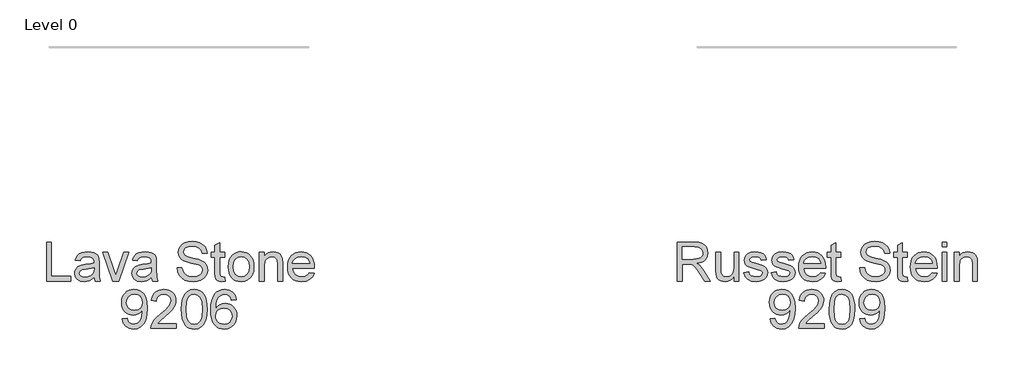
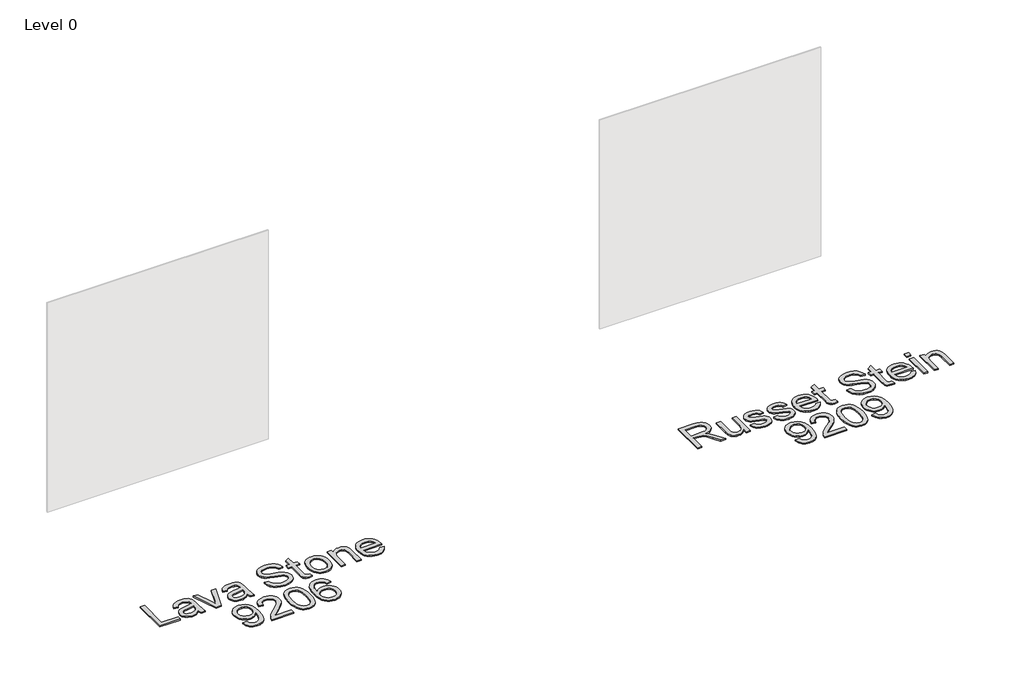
# One storey, part 2 of 8: 2 proxies.
"""IFC4 building model written with IfcOpenShell, lengths in millimetres."""

from ifc_helpers import new_model, si_unit, origin, origin_with_axes, place, context, project, spatial, polyline, outline, extrude, element, save

model = new_model("IFC4")

# Units and contexts
model_context = context("Model", 3, world=origin())
ifc_project = project(units=[si_unit("LENGTHUNIT", "METRE", prefix="MILLI")], contexts=[model_context])

# Site, building, storey
site = spatial("IfcSite", under=ifc_project)
building = spatial("IfcBuilding", under=site)
storey = spatial("IfcBuildingStorey", under=building, Name="Level 0", Elevation=0.0)

# Proxies
placement = place(None, origin())
element("IfcBuildingElementProxy", 1, Name="300mm Arial", ObjectType="300mm Arial", at=placement, inside=storey, context=model_context, shape_type="SweptSolid", body=[
    extrude(outline(polyline([(-10472.4870861, -12002.860494), (-10472.4870861, -11701.4915635), (-10434.8159698, -11701.4915635), (-10434.8159698, -11965.1893777), (-10284.1315046, -11965.1893777), (-10284.1315046, -12002.860494), (-10472.4870861, -12002.860494)])), origin_with_axes(), (0.0, 0.0, 1.0), 10.0),
    extrude(outline(polyline([(-10105.1937021, -11974.6071568), (-10123.1923287, -11990.0398064), (-10141.7243842, -12000.1381672), (-10161.2129329, -12005.7115794), (-10182.0810391, -12007.5693835), (-10213.5625409, -12003.0996173), (-10236.7850918, -11989.6903186), (-10251.1048985, -11969.3280501), (-10255.8781674, -11943.9993748), (-10254.0755456, -11928.3827841), (-10248.6676802, -11914.2009331), (-10240.325956, -11902.0608273), (-10229.7217575, -11892.5694718), (-10203.3446184, -11880.2086368), (-10170.7502737, -11874.5432541), (-10132.2330288, -11868.5835657), (-10105.4144313, -11861.5938078), (-10105.1937021, -11853.2060983), (-10107.7872702, -11836.3938912), (-10115.5679744, -11825.3942195), (-10132.9687928, -11817.2272392), (-10157.2122162, -11814.5049125), (-10179.6530179, -11816.3167313), (-10195.3247909, -11821.7521878), (-10206.0117629, -11831.8045633), (-10213.4981615, -11847.4671392), (-10251.1692778, -11842.7582497), (-10244.6301753, -11822.156858), (-10234.8721054, -11805.9700502), (-10220.9845601, -11793.590821), (-10202.0570315, -11784.4121652), (-10178.9080569, -11778.7283884), (-10152.3561739, -11776.8337961), (-10126.8895428, -11778.5076592), (-10106.7020183, -11783.5292485), (-10091.4809008, -11791.0800264), (-10080.9134904, -11800.3414556), (-10073.9053384, -11811.7917827), (-10069.3619958, -11825.9092543), (-10067.5225858, -11858.8714811), (-10067.5225858, -11905.7396473), (-10065.6095994, -11971.1858542), (-10058.1048067, -12002.860494), (-10095.775923, -12002.860494), (-10105.1937021, -11974.6071568)]), holes=[polyline([(-10105.1937021, -11899.2649241), (-10165.9678077, -11910.8164188), (-10198.3782115, -11916.9232599), (-10213.0567031, -11926.8560738), (-10218.207051, -11941.3506244), (-10215.4019508, -11952.5526311), (-10206.9866502, -11961.7312869), (-10193.1450901, -11967.8565221), (-10174.0612116, -11969.8982672), (-10153.8277019, -11967.64499), (-10135.9486369, -11960.8851583), (-10121.4540863, -11950.9247533), (-10111.3741196, -11939.069756), (-10106.9043534, -11926.8560738), (-10105.4144313, -11909.933502), (-10105.1937021, -11899.2649241)])]), origin_with_axes(), (0.0, 0.0, 1.0), 10.0),
    extrude(outline(polyline([(-9961.4254184, -12002.860494), (-10039.2692486, -11781.5426857), (-9999.3908403, -11781.5426857), (-9952.2283685, -11914.1273567), (-9938.0281235, -11958.7146546), (-9924.1221841, -11916.6289543), (-9876.6654067, -11781.5426857), (-9836.7869984, -11781.5426857), (-9913.6743354, -12002.860494), (-9961.4254184, -12002.860494)])), origin_with_axes(), (0.0, 0.0, 1.0), 10.0),
    extrude(outline(polyline([(-9662.5580855, -11974.6071568), (-9680.5567121, -11990.0398064), (-9699.0887677, -12000.1381672), (-9718.5773163, -12005.7115794), (-9739.4454225, -12007.5693835), (-9770.9269243, -12003.0996173), (-9794.1494752, -11989.6903186), (-9808.4692819, -11969.3280501), (-9813.2425508, -11943.9993748), (-9811.439929, -11928.3827841), (-9806.0320636, -11914.2009331), (-9797.6903394, -11902.0608273), (-9787.0861409, -11892.5694718), (-9760.7090018, -11880.2086368), (-9728.1146571, -11874.5432541), (-9689.5974122, -11868.5835657), (-9662.7788147, -11861.5938078), (-9662.5580855, -11853.2060983), (-9665.1516536, -11836.3938912), (-9672.9323578, -11825.3942195), (-9690.3331762, -11817.2272392), (-9714.5765996, -11814.5049125), (-9737.0174014, -11816.3167313), (-9752.6891743, -11821.7521878), (-9763.3761463, -11831.8045633), (-9770.8625449, -11847.4671392), (-9808.5336612, -11842.7582497), (-9801.9945588, -11822.156858), (-9792.2364888, -11805.9700502), (-9778.3489435, -11793.590821), (-9759.4214149, -11784.4121652), (-9736.2724403, -11778.7283884), (-9709.7205573, -11776.8337961), (-9684.2539262, -11778.5076592), (-9664.0664017, -11783.5292485), (-9648.8452842, -11791.0800264), (-9638.2778738, -11800.3414556), (-9631.2697218, -11811.7917827), (-9626.7263792, -11825.9092543), (-9624.8869692, -11858.8714811), (-9624.8869692, -11905.7396473), (-9622.9739828, -11971.1858542), (-9615.4691901, -12002.860494), (-9653.1403065, -12002.860494), (-9662.5580855, -11974.6071568)]), holes=[polyline([(-9662.5580855, -11899.2649241), (-9723.3321911, -11910.8164188), (-9755.7425949, -11916.9232599), (-9770.4210865, -11926.8560738), (-9775.5714344, -11941.3506244), (-9772.7663342, -11952.5526311), (-9764.3510336, -11961.7312869), (-9750.5094735, -11967.8565221), (-9731.425595, -11969.8982672), (-9711.1920853, -11967.64499), (-9693.3130203, -11960.8851583), (-9678.8184697, -11950.9247533), (-9668.738503, -11939.069756), (-9664.2687368, -11926.8560738), (-9662.7788147, -11909.933502), (-9662.5580855, -11899.2649241)])]), origin_with_axes(), (0.0, 0.0, 1.0), 10.0),
    extrude(outline(polyline([(-9464.7847249, -11899.2649241), (-9427.1136086, -11899.2649241), (-9422.7909952, -11920.1698185), (-9414.9735028, -11936.9728286), (-9402.7782146, -11950.308551), (-9385.322214, -11960.8115819), (-9363.9850582, -11967.6265959), (-9340.146305, -11969.8982672), (-9319.1586371, -11968.1784189), (-9300.7829315, -11963.0188739), (-9285.8929077, -11954.8518936), (-9275.3622856, -11944.1097394), (-9269.0990946, -11931.7764955), (-9267.0113643, -11918.8362463), (-9268.5748628, -11906.2270909), (-9273.2653582, -11895.3285868), (-9282.7935019, -11886.0303694), (-9298.8699451, -11878.222074), (-9353.7211506, -11863.837888), (-9389.7276009, -11854.3189414), (-9412.7662108, -11845.2598472), (-9431.5189955, -11832.5863125), (-9444.8087326, -11817.2272392), (-9452.7273925, -11799.5137211), (-9455.3669458, -11779.7768521), (-9452.1019931, -11757.7131294), (-9442.307135, -11737.1393289), (-9426.2398889, -11719.7017223), (-9404.1577721, -11707.0465817), (-9377.6518744, -11699.3486509), (-9348.3132852, -11696.782674), (-9316.5282809, -11699.4682126), (-9288.716402, -11707.5248283), (-9265.8709301, -11720.7869742), (-9248.9851466, -11739.0891034), (-9238.2981746, -11761.2907818), (-9234.0491375, -11786.2515752), (-9271.7202539, -11786.2515752), (-9278.6364354, -11763.7739853), (-9293.0574096, -11747.5503893), (-9315.5901818, -11737.7279401), (-9346.8417573, -11734.4537903), (-9378.8290967, -11737.6911519), (-9400.7732578, -11747.4032365), (-9413.4651866, -11761.695452), (-9417.6958295, -11778.6732061), (-9414.6975913, -11793.1493626), (-9405.7028765, -11804.7928278), (-9384.4392972, -11815.2038882), (-9344.1930069, -11825.8356779), (-9302.6591296, -11835.9340387), (-9277.5327894, -11844.7448125), (-9256.0576779, -11858.4116286), (-9241.0756837, -11875.2790181), (-9232.2741069, -11895.1630399), (-9229.340248, -11917.8797531), (-9232.7155653, -11941.102304), (-9242.8415172, -11962.9452975), (-9259.3042365, -11981.7440675), (-9281.6898559, -11995.8339479), (-9308.6096209, -12004.6355246), (-9338.674777, -12007.5693835), (-9375.5825381, -12004.4055984), (-9405.9603939, -11994.9142429), (-9430.1578321, -11979.0585289), (-9448.5243407, -11956.8016682), (-9460.3149587, -11929.6887651), (-9464.7847249, -11899.2649241)])), origin_with_axes(), (0.0, 0.0, 1.0), 10.0),
    extrude(outline(polyline([(-9097.4913409, -11971.4433716), (-9092.7824514, -12003.96414), (-9120.9622122, -12007.5693835), (-9139.0436123, -12006.005885), (-9152.5264874, -12001.3153896), (-9162.0546311, -11994.0865084), (-9168.2718368, -11984.9078526), (-9171.6931394, -11969.1441091), (-9172.8335735, -11942.1599648), (-9172.8335735, -11819.213802), (-9201.0869108, -11819.213802), (-9201.0869108, -11781.5426857), (-9172.8335735, -11781.5426857), (-9172.8335735, -11727.758338), (-9135.1624572, -11705.6118419), (-9135.1624572, -11781.5426857), (-9097.4913409, -11781.5426857), (-9097.4913409, -11819.213802), (-9135.1624572, -11819.213802), (-9135.1624572, -11941.0563188), (-9133.1758945, -11960.4804881), (-9126.7379596, -11967.3598814), (-9113.8988779, -11969.8982672), (-9097.4913409, -11971.4433716)])), origin_with_axes(), (0.0, 0.0, 1.0), 10.0),
    extrude(outline(polyline([(-9069.2380037, -11892.2015898), (-9067.2008572, -11863.5389839), (-9061.0894175, -11838.8403064), (-9050.9036848, -11818.1055575), (-9036.6436589, -11801.334737), (-9022.2870641, -11790.6155754), (-9006.4405471, -11782.9590314), (-8989.1041081, -11778.3651049), (-8970.277747, -11776.8337961), (-8949.4947135, -11778.698498), (-8930.7028414, -11784.2926036), (-8913.9021305, -11793.6161129), (-8899.0925809, -11806.669026), (-8887.0053581, -11823.0098843), (-8878.3716276, -11842.1972296), (-8873.1913892, -11864.2310619), (-8871.4646431, -11889.1113811), (-8874.5180637, -11927.1687735), (-8883.6783253, -11956.1394806), (-8898.6787137, -11977.8353213), (-8919.2525143, -11994.0681143), (-8943.6890758, -12004.1940662), (-8970.277747, -12007.5693835), (-8991.3642831, -12005.7115794), (-9010.3308992, -12000.1381672), (-9027.1775953, -11990.8491468), (-9041.9043715, -11977.8445183), (-9053.8628356, -11961.3450108), (-9062.4045956, -11941.5713536), (-9067.5296517, -11918.5235466), (-9069.2380037, -11892.2015898)]), holes=[polyline([(-9031.5668874, -11892.1280134), (-9027.2074858, -11926.2214773), (-9014.1292808, -11950.5108861), (-8994.4475941, -11965.0514219), (-8970.277747, -11969.8982672), (-8946.2182645, -11965.0238308), (-8926.573366, -11950.4005215), (-8913.4951611, -11925.789216), (-8909.1357594, -11890.950791), (-8913.5227522, -11857.8506085), (-8926.6837306, -11833.8922936), (-8946.3562203, -11819.3517577), (-8970.277747, -11814.5049125), (-8994.4475941, -11819.3333636), (-9014.1292808, -11833.8187172), (-9027.2074858, -11858.0529436), (-9031.5668874, -11892.1280134)])]), origin_with_axes(), (0.0, 0.0, 1.0), 10.0),
    extrude(outline(polyline([(-8829.0846373, -12002.860494), (-8829.0846373, -11781.5426857), (-8791.413521, -11781.5426857), (-8791.413521, -11812.4447733), (-8778.326119, -11796.8649708), (-8762.6083607, -11785.7365404), (-8744.2602462, -11779.0594822), (-8723.2817754, -11776.8337961), (-8704.7129317, -11778.6272209), (-8687.7075865, -11784.0074951), (-8673.5257356, -11792.303234), (-8663.4273748, -11802.8430532), (-8652.1333976, -11830.5445674), (-8650.1468348, -11866.964885), (-8650.1468348, -12002.860494), (-8687.8179511, -12002.860494), (-8687.8179511, -11872.0416565), (-8692.1589587, -11838.7115477), (-8698.1646322, -11828.7879309), (-8707.4996379, -11821.0900002), (-8719.4649997, -11816.1511844), (-8733.3617421, -11814.5049125), (-8755.4254648, -11818.2021265), (-8774.2334318, -11829.2937687), (-8781.7497208, -11838.3482643), (-8787.1184987, -11850.7228949), (-8791.413521, -11885.4325611), (-8791.413521, -12002.860494), (-8829.0846373, -12002.860494)])), origin_with_axes(), (0.0, 0.0, 1.0), 10.0),
    extrude(outline(polyline([(-8443.3971535, -11936.9360404), (-8406.4618012, -11941.64493), (-8419.7699324, -11969.4752029), (-8441.0059205, -11990.2789297), (-8469.6915191, -12003.2467701), (-8505.3484815, -12007.5693835), (-8528.7227838, -12005.7046817), (-8549.5495032, -12000.1105761), (-8567.8286399, -11990.7870668), (-8583.5601937, -11977.7341537), (-8596.2107358, -11961.3151204), (-8605.2468373, -11941.8932503), (-8610.6684982, -11919.4685435), (-8612.4757185, -11894.0409998), (-8610.6501041, -11867.7512327), (-8605.1732609, -11844.5792656), (-8596.0451889, -11824.5250983), (-8583.2658881, -11807.5887309), (-8567.575721, -11794.133447), (-8549.7150501, -11784.5225298), (-8529.6838755, -11778.7559796), (-8507.4821971, -11776.8337961), (-8485.9955893, -11778.751381), (-8466.5645222, -11784.5041357), (-8449.1889957, -11794.0920602), (-8433.8690098, -11807.5151545), (-8421.3633213, -11824.4147337), (-8412.4306866, -11844.4321128), (-8407.0711058, -11867.5672917), (-8405.2845788, -11893.8202706), (-8405.505308, -11903.9738137), (-8574.8046022, -11903.9738137), (-8568.2838938, -11932.1719686), (-8553.1363527, -11952.902119), (-8531.2749651, -11965.6492302), (-8504.6127175, -11969.8982672), (-8484.5631488, -11967.9300985), (-8467.6773652, -11962.0255925), (-8453.9553668, -11951.8168672), (-8443.3971535, -11936.9360404)]), holes=[polyline([(-8574.8046022, -11866.3026974), (-8442.9556951, -11866.3026974), (-8448.0508608, -11846.4002814), (-8458.0388569, -11832.1632482), (-8480.001412, -11818.9194964), (-8507.6293499, -11814.5049125), (-8533.0224046, -11818.0273826), (-8554.0192695, -11828.5947929), (-8568.6149876, -11845.0667092), (-8574.8046022, -11866.3026974)])]), origin_with_axes(), (0.0, 0.0, 1.0), 10.0),
    extrude(outline(polyline([(-9888.5847834, -12293.4427149), (-9850.9136671, -12288.7338254), (-9844.4757321, -12310.1169663), (-9833.9910953, -12324.6758963), (-9819.7172739, -12333.0360146), (-9801.9117853, -12335.8227207), (-9785.9365097, -12334.029296), (-9771.4143679, -12328.6490218), (-9759.3478385, -12320.2705094), (-9750.7393998, -12309.4823699), (-9738.4153529, -12276.7408723), (-9732.9706994, -12233.0364913), (-9733.1914286, -12225.6788514), (-9746.2420424, -12241.6081418), (-9763.320964, -12254.2264942), (-9783.1957888, -12262.4486568), (-9804.6341121, -12265.1893777), (-9822.5292719, -12263.5155146), (-9838.9850934, -12258.4939254), (-9854.0015766, -12250.12461), (-9867.5787214, -12238.4075684), (-9878.8290127, -12223.9544045), (-9886.864935, -12207.3767221), (-9891.6864884, -12188.6745212), (-9893.2936729, -12167.8478018), (-9891.6083135, -12146.326705), (-9886.5522353, -12127.0129003), (-9878.1254384, -12109.9063875), (-9866.3279227, -12095.0071667), (-9851.9920212, -12082.9360387), (-9835.9500669, -12074.3138045), (-9818.2020599, -12069.1404639), (-9798.7480001, -12067.4160171), (-9770.6510128, -12071.3523544), (-9745.074017, -12083.1613665), (-9723.681679, -12102.254442), (-9708.1386647, -12128.0429699), (-9698.6749004, -12163.6907352), (-9695.5203123, -12212.3615232), (-9698.6657034, -12263.96617), (-9708.1018765, -12303.8537754), (-9723.7460584, -12333.8269609), (-9745.5154754, -12355.6883485), (-9772.4720286, -12369.0424649), (-9803.6776189, -12373.4938371), (-9835.8856876, -12368.2423216), (-9861.5822449, -12352.4877751), (-9879.5532804, -12327.2234791), (-9888.5847834, -12293.4427149)]), holes=[polyline([(-9733.1914286, -12166.964885), (-9737.2565246, -12141.4338745), (-9749.4518128, -12121.788976), (-9768.3793414, -12109.262594), (-9792.641159, -12105.0871334), (-9817.8042875, -12109.5844908), (-9837.9642208, -12123.0765629), (-9851.2079727, -12143.7239399), (-9855.6225566, -12169.6872117), (-9851.447096, -12192.964945), (-9838.920714, -12211.4418182), (-9819.2574214, -12223.4991506), (-9793.6712286, -12227.5182614), (-9769.6025491, -12223.4991506), (-9750.224365, -12211.4418182), (-9737.4496627, -12192.2843633), (-9733.1914286, -12166.964885)])]), origin_with_axes(), (0.0, 0.0, 1.0), 10.0),
    extrude(outline(polyline([(-9469.4936145, -12331.1138312), (-9469.4936145, -12368.7849475), (-9667.2669751, -12368.7849475), (-9663.2202731, -12342.8124787), (-9653.9312527, -12322.5145896), (-9640.338013, -12302.8237058), (-9620.6747204, -12282.213117), (-9593.1755412, -12259.156113), (-9552.5245808, -12223.0484951), (-9528.1340045, -12196.3954446), (-9515.9387164, -12174.7639833), (-9511.8736203, -12153.7211331), (-9515.7087901, -12134.8579838), (-9527.2142995, -12119.1770138), (-9544.9002264, -12108.6096035), (-9567.2766488, -12105.0871334), (-9590.7751112, -12108.52683), (-9609.0312552, -12118.84592), (-9620.8126761, -12135.2350629), (-9624.8869692, -12156.8849183), (-9662.5580855, -12152.1760288), (-9653.425415, -12115.7373171), (-9644.8790564, -12101.2013798), (-9633.6793489, -12089.1210548), (-9620.0838099, -12079.6251008), (-9604.3499568, -12072.8422765), (-9566.4673084, -12067.4160171), (-9546.2774846, -12068.9243332), (-9528.3087484, -12073.4492818), (-9512.5610998, -12080.9908627), (-9499.0345387, -12091.549076), (-9488.1705235, -12104.3421723), (-9480.4105127, -12118.5884026), (-9475.7545062, -12134.2877667), (-9474.202504, -12151.4402648), (-9475.8763671, -12169.4572855), (-9480.8979563, -12187.1616065), (-9489.8098976, -12205.1694302), (-9503.154817, -12224.0969588), (-9524.4275934, -12246.6941104), (-9557.1231057, -12275.7108027), (-9600.4596047, -12311.9471793), (-9617.4557529, -12331.1138312), (-9469.4936145, -12331.1138312)])), origin_with_axes(), (0.0, 0.0, 1.0), 10.0),
    extrude(outline(polyline([(-9431.8224982, -12220.5285035), (-9429.0541861, -12172.2899768), (-9420.7492501, -12133.8187172), (-9406.9904635, -12104.5261133), (-9387.8605997, -12083.8235541), (-9363.2217031, -12071.5179013), (-9332.9358179, -12067.4160171), (-9309.722464, -12069.8440382), (-9288.9371312, -12077.1281017), (-9271.554707, -12088.983099), (-9258.5500784, -12105.1239216), (-9248.7276292, -12125.4126136), (-9240.8917427, -12149.7112194), (-9235.7597888, -12180.5673217), (-9234.0491375, -12220.5285035), (-9236.7898584, -12268.4911186), (-9245.012021, -12306.8704077), (-9258.6880342, -12336.1906027), (-9277.7903068, -12356.9759355), (-9302.4843857, -12369.3643617), (-9332.9358179, -12373.4938371), (-9353.6843624, -12371.7004123), (-9372.0784621, -12366.3201381), (-9388.1181171, -12357.3530145), (-9401.8033273, -12344.7990414), (-9414.9367146, -12322.1053209), (-9424.3177055, -12293.828991), (-9429.9463, -12259.9700519), (-9431.8224982, -12220.5285035)]), holes=[polyline([(-9394.1513818, -12220.4549271), (-9389.7367979, -12279.7115194), (-9384.218568, -12299.9795181), (-9376.4930461, -12314.0073184), (-9356.7745711, -12330.3688702), (-9332.9358179, -12335.8227207), (-9309.0970646, -12330.3504761), (-9289.3785896, -12313.933742), (-9281.6530677, -12299.8829491), (-9276.1348378, -12279.6195489), (-9271.7202539, -12220.4549271), (-9275.987685, -12162.5319069), (-9281.3219739, -12142.3305869), (-9288.7899784, -12127.9693935), (-9308.4716652, -12110.8076984), (-9333.3772762, -12105.0871334), (-9356.9585121, -12110.1271167), (-9375.9044349, -12125.2470667), (-9383.8874742, -12140.8820515), (-9389.5896451, -12161.9616898), (-9394.1513818, -12220.4549271)])]), origin_with_axes(), (0.0, 0.0, 1.0), 10.0),
    extrude(outline(polyline([(-9008.0224397, -12147.4671392), (-9045.693556, -12152.1760288), (-9051.7636089, -12133.5060175), (-9059.9673774, -12120.7589064), (-9077.0554961, -12109.0050766), (-9097.7120701, -12105.0871334), (-9115.2232531, -12107.3680017), (-9131.7043665, -12114.2106069), (-9145.8586263, -12128.622384), (-9157.419318, -12148.4604206), (-9165.2276133, -12176.5206198), (-9168.124684, -12215.5988847), (-9153.0139311, -12197.9681401), (-9134.9049398, -12185.5429257), (-9114.8093859, -12178.1760888), (-9093.7389446, -12175.7204764), (-9075.6391504, -12177.3989381), (-9058.9373078, -12182.4343229), (-9043.6334168, -12190.8266309), (-9029.7274774, -12202.5758621), (-9018.1713843, -12216.9830407), (-9009.917032, -12233.349191), (-9004.9644206, -12251.6743129), (-9003.3135502, -12271.9584064), (-9006.422153, -12298.9333537), (-9015.7479616, -12323.9401323), (-9030.5184237, -12345.1485293), (-9049.9609872, -12360.7283318), (-9073.1927352, -12370.3024607), (-9099.3307509, -12373.4938371), (-9121.7876475, -12371.3785156), (-9142.0694417, -12365.0325512), (-9160.1761337, -12354.4559438), (-9176.1077233, -12339.6486935), (-9189.096257, -12319.9854009), (-9198.3737811, -12294.8406665), (-9203.9402955, -12264.2144904), (-9205.7958003, -12228.1068726), (-9203.7356611, -12187.6260575), (-9197.5552436, -12153.0773396), (-9187.2545478, -12124.4607189), (-9172.8335735, -12101.7761954), (-9157.2031873, -12086.7436174), (-9139.0804005, -12076.0060617), (-9118.4652132, -12069.5635282), (-9095.3576254, -12067.4160171), (-9062.3034281, -12072.7319119), (-9035.8343185, -12088.6795964), (-9017.293066, -12114.0082718), (-9008.0224397, -12147.4671392)]), holes=[polyline([(-9168.124684, -12271.3697952), (-9165.9449832, -12288.0624407), (-9159.4058807, -12304.0009282), (-9149.2523377, -12317.7045325), (-9136.229315, -12327.6925287), (-9120.5115568, -12333.7901727), (-9102.2738069, -12335.8227207), (-9077.4141811, -12331.6104719), (-9057.8704501, -12318.9737254), (-9045.2061124, -12299.1080976), (-9040.9846665, -12273.2092052), (-9045.1509301, -12248.3495793), (-9057.6497209, -12229.3944595), (-9077.5245456, -12217.3923095), (-9103.8189113, -12213.3915928), (-9128.6417489, -12217.3923095), (-9149.3994905, -12229.3944595), (-9163.4433856, -12247.8897269), (-9168.124684, -12271.3697952)])]), origin_with_axes(), (0.0, 0.0, 1.0), 10.0),
])
element("IfcBuildingElementProxy", 2, Name="300mm Arial", ObjectType="300mm Arial", at=placement, inside=storey, context=model_context, shape_type="SweptSolid", body=[
    extrude(outline(polyline([(-5604.3359932, -12002.860494), (-5604.3359932, -11701.4915635), (-5474.4736489, -11701.4915635), (-5439.5708446, -11703.5241116), (-5414.1777899, -11709.6217556), (-5395.6181432, -11720.8789447), (-5381.2155631, -11738.3901276), (-5371.972528, -11760.1043624), (-5368.8915163, -11783.9707069), (-5373.995879, -11813.6587839), (-5389.308967, -11838.2700893), (-5400.9087462, -11848.2994722), (-5415.2906329, -11856.3147012), (-5452.4007292, -11866.3026974), (-5430.9899971, -11882.4159288), (-5400.4557915, -11921.1906911), (-5350.2031109, -12002.860494), (-5393.9810683, -12002.860494), (-5433.197289, -11940.3941312), (-5461.5242027, -11899.0441949), (-5481.4266186, -11879.509661), (-5499.3424718, -11872.3359621), (-5521.1946623, -11871.0115869), (-5566.6648769, -11871.0115869), (-5566.6648769, -12002.860494), (-5604.3359932, -12002.860494)]), holes=[polyline([(-5566.6648769, -11833.3404706), (-5482.3463236, -11833.3404706), (-5458.1304912, -11832.0068984), (-5439.3409183, -11828.0061817), (-5425.1958556, -11821.0716061), (-5414.9135539, -11810.9364571), (-5408.6503629, -11798.6767896), (-5406.5626326, -11785.3686584), (-5410.5449552, -11766.9929528), (-5422.491923, -11752.1857025), (-5443.0473294, -11742.4184355), (-5472.8549681, -11739.1626798), (-5566.6648769, -11739.1626798), (-5566.6648769, -11833.3404706)])]), origin_with_axes(), (0.0, 0.0, 1.0), 10.0),
    extrude(outline(polyline([(-5166.4092661, -12002.860494), (-5166.4092661, -11964.8214957), (-5180.039294, -11983.5236966), (-5195.9134021, -11996.8824116), (-5214.0315904, -12004.8976405), (-5234.3938588, -12007.5693835), (-5252.7419733, -12005.6931853), (-5269.820895, -12000.0645908), (-5284.1498987, -11991.6033049), (-5294.2482594, -11981.2290327), (-5305.4686603, -11953.4907302), (-5307.6759523, -11918.4683643), (-5307.6759523, -11781.5426857), (-5270.004836, -11781.5426857), (-5270.004836, -11900.7364521), (-5267.7239676, -11939.1433324), (-5262.2333288, -11951.9548229), (-5252.8247468, -11961.6944987), (-5240.1236209, -11967.8473251), (-5224.7553506, -11969.8982672), (-5208.5041634, -11967.8013398), (-5193.30144, -11961.5105577), (-5180.765861, -11951.605335), (-5172.5161072, -11938.6650858), (-5167.9359764, -11920.9423707), (-5166.4092661, -11896.6897502), (-5166.4092661, -11781.5426857), (-5128.7381498, -11781.5426857), (-5128.7381498, -12002.860494), (-5166.4092661, -12002.860494)])), origin_with_axes(), (0.0, 0.0, 1.0), 10.0),
    extrude(outline(polyline([(-5091.0670335, -11936.9360404), (-5053.3959172, -11932.2271509), (-5047.454623, -11948.3403823), (-5035.9583106, -11960.1861825), (-5018.8334038, -11967.470246), (-4996.006326, -11969.8982672), (-4973.4551597, -11967.6725811), (-4957.5994457, -11960.9955229), (-4948.2184548, -11951.3202265), (-4945.0914578, -11940.0998256), (-4948.2368489, -11930.4981055), (-4957.6730221, -11923.1772538), (-4996.4477844, -11912.4350996), (-5053.175188, -11894.0042116), (-5067.5317829, -11884.7427824), (-5077.9336463, -11872.4831149), (-5084.2520196, -11858.0069584), (-5086.358144, -11842.0960621), (-5084.6658868, -11827.5003439), (-5079.5891153, -11814.0266659), (-5071.5876819, -11802.2084568), (-5061.1214391, -11792.5791455), (-5037.1723212, -11781.4323211), (-5004.7619174, -11776.8337961), (-4980.2425825, -11778.6824032), (-4958.9238208, -11784.2282242), (-4941.7805199, -11792.9286334), (-4929.7875668, -11804.2410048), (-4921.8413157, -11819.0022698), (-4916.8381206, -11838.0493601), (-4954.5092369, -11842.7582497), (-4959.2641117, -11830.9032524), (-4968.6726937, -11821.972917), (-4982.8269535, -11816.3719136), (-5001.8188615, -11814.5049125), (-5023.4503228, -11816.2891401), (-5037.871297, -11821.6418232), (-5045.983095, -11829.3673451), (-5048.6870277, -11838.2700893), (-5044.1988673, -11849.2329728), (-5030.1457751, -11857.5471059), (-4997.6985831, -11865.5669334), (-4942.4059193, -11883.2988455), (-4927.8010041, -11891.7785255), (-4916.727756, -11903.3852025), (-4909.7471951, -11918.1556646), (-4907.4203415, -11936.1267001), (-4910.1518653, -11954.7047408), (-4918.3464368, -11972.1791356), (-4931.6913562, -11987.1795239), (-4949.8739238, -11998.3355454), (-4971.8364789, -12005.260924), (-4996.5213608, -12007.5693835), (-5034.5051768, -12003.1180114), (-5062.2250851, -11989.763895), (-5080.7295494, -11967.654187), (-5091.0670335, -11936.9360404)])), origin_with_axes(), (0.0, 0.0, 1.0), 10.0),
    extrude(outline(polyline([(-4879.1670043, -11936.9360404), (-4841.495888, -11932.2271509), (-4835.5545938, -11948.3403823), (-4824.0582814, -11960.1861825), (-4806.9333745, -11967.470246), (-4784.1062967, -11969.8982672), (-4761.5551304, -11967.6725811), (-4745.6994164, -11960.9955229), (-4736.3184256, -11951.3202265), (-4733.1914286, -11940.0998256), (-4736.3368197, -11930.4981055), (-4745.7729928, -11923.1772538), (-4784.5477551, -11912.4350996), (-4841.2751588, -11894.0042116), (-4855.6317536, -11884.7427824), (-4866.0336171, -11872.4831149), (-4872.3519903, -11858.0069584), (-4874.4581148, -11842.0960621), (-4872.7658576, -11827.5003439), (-4867.689086, -11814.0266659), (-4859.6876526, -11802.2084568), (-4849.2214099, -11792.5791455), (-4825.272292, -11781.4323211), (-4792.8618882, -11776.8337961), (-4768.3425532, -11778.6824032), (-4747.0237916, -11784.2282242), (-4729.8804906, -11792.9286334), (-4717.8875376, -11804.2410048), (-4709.9412865, -11819.0022698), (-4704.9380914, -11838.0493601), (-4742.6092077, -11842.7582497), (-4747.3640825, -11830.9032524), (-4756.7726645, -11821.972917), (-4770.9269243, -11816.3719136), (-4789.9188323, -11814.5049125), (-4811.5502936, -11816.2891401), (-4825.9712678, -11821.6418232), (-4834.0830658, -11829.3673451), (-4836.7869984, -11838.2700893), (-4832.2988381, -11849.2329728), (-4818.2457459, -11857.5471059), (-4785.7985539, -11865.5669334), (-4730.50589, -11883.2988455), (-4715.9009748, -11891.7785255), (-4704.8277268, -11903.3852025), (-4697.8471659, -11918.1556646), (-4695.5203123, -11936.1267001), (-4698.2518361, -11954.7047408), (-4706.4464076, -11972.1791356), (-4719.7913269, -11987.1795239), (-4737.9738945, -11998.3355454), (-4759.9364497, -12005.260924), (-4784.6213315, -12007.5693835), (-4822.6051475, -12003.1180114), (-4850.3250559, -11989.763895), (-4868.8295202, -11967.654187), (-4879.1670043, -11936.9360404)])), origin_with_axes(), (0.0, 0.0, 1.0), 10.0),
    extrude(outline(polyline([(-4498.1884101, -11936.9360404), (-4461.2530578, -11941.64493), (-4474.5611889, -11969.4752029), (-4495.7971771, -11990.2789297), (-4524.4827757, -12003.2467701), (-4560.1397381, -12007.5693835), (-4583.5140403, -12005.7046817), (-4604.3407598, -12000.1105761), (-4622.6198964, -11990.7870668), (-4638.3514502, -11977.7341537), (-4651.0019924, -11961.3151204), (-4660.0380939, -11941.8932503), (-4665.4597548, -11919.4685435), (-4667.2669751, -11894.0409998), (-4665.4413607, -11867.7512327), (-4659.9645175, -11844.5792656), (-4650.8364455, -11824.5250983), (-4638.0571447, -11807.5887309), (-4622.3669776, -11794.133447), (-4604.5063067, -11784.5225298), (-4584.4751321, -11778.7559796), (-4562.2734536, -11776.8337961), (-4540.7868459, -11778.751381), (-4521.3557787, -11784.5041357), (-4503.9802522, -11794.0920602), (-4488.6602664, -11807.5151545), (-4476.1545778, -11824.4147337), (-4467.2219431, -11844.4321128), (-4461.8623623, -11867.5672917), (-4460.0758354, -11893.8202706), (-4460.2965646, -11903.9738137), (-4629.5958588, -11903.9738137), (-4623.0751504, -11932.1719686), (-4607.9276092, -11952.902119), (-4586.0662217, -11965.6492302), (-4559.4039741, -11969.8982672), (-4539.3544053, -11967.9300985), (-4522.4686218, -11962.0255925), (-4508.7466233, -11951.8168672), (-4498.1884101, -11936.9360404)]), holes=[polyline([(-4629.5958588, -11866.3026974), (-4497.7469517, -11866.3026974), (-4502.8421173, -11846.4002814), (-4512.8301135, -11832.1632482), (-4534.7926686, -11818.9194964), (-4562.4206064, -11814.5049125), (-4587.8136612, -11818.0273826), (-4608.810526, -11828.5947929), (-4623.4062442, -11845.0667092), (-4629.5958588, -11866.3026974)])]), origin_with_axes(), (0.0, 0.0, 1.0), 10.0),
    extrude(outline(polyline([(-4342.3535969, -11971.4433716), (-4337.6447074, -12003.96414), (-4365.8244682, -12007.5693835), (-4383.9058683, -12006.005885), (-4397.3887434, -12001.3153896), (-4406.9168871, -11994.0865084), (-4413.1340928, -11984.9078526), (-4416.5553954, -11969.1441091), (-4417.6958295, -11942.1599648), (-4417.6958295, -11819.213802), (-4445.9491668, -11819.213802), (-4445.9491668, -11781.5426857), (-4417.6958295, -11781.5426857), (-4417.6958295, -11727.758338), (-4380.0247132, -11705.6118419), (-4380.0247132, -11781.5426857), (-4342.3535969, -11781.5426857), (-4342.3535969, -11819.213802), (-4380.0247132, -11819.213802), (-4380.0247132, -11941.0563188), (-4378.0381505, -11960.4804881), (-4371.6002155, -11967.3598814), (-4358.7611339, -11969.8982672), (-4342.3535969, -11971.4433716)])), origin_with_axes(), (0.0, 0.0, 1.0), 10.0),
    extrude(outline(polyline([(-4196.3780212, -11899.2649241), (-4158.7069049, -11899.2649241), (-4154.3842915, -11920.1698185), (-4146.5667991, -11936.9728286), (-4134.371511, -11950.308551), (-4116.9155103, -11960.8115819), (-4095.5783546, -11967.6265959), (-4071.7396013, -11969.8982672), (-4050.7519335, -11968.1784189), (-4032.3762278, -11963.0188739), (-4017.486204, -11954.8518936), (-4006.9555819, -11944.1097394), (-4000.692391, -11931.7764955), (-3998.6046606, -11918.8362463), (-4000.1681591, -11906.2270909), (-4004.8586546, -11895.3285868), (-4014.3867982, -11886.0303694), (-4030.4632414, -11878.222074), (-4085.3144469, -11863.837888), (-4121.3208972, -11854.3189414), (-4144.3595071, -11845.2598472), (-4163.1122918, -11832.5863125), (-4176.4020289, -11817.2272392), (-4184.3206888, -11799.5137211), (-4186.9602422, -11779.7768521), (-4183.6952895, -11757.7131294), (-4173.9004313, -11737.1393289), (-4157.8331852, -11719.7017223), (-4135.7510684, -11707.0465817), (-4109.2451707, -11699.3486509), (-4079.9065816, -11696.782674), (-4048.1215772, -11699.4682126), (-4020.3096983, -11707.5248283), (-3997.4642264, -11720.7869742), (-3980.5784429, -11739.0891034), (-3969.8914709, -11761.2907818), (-3965.6424339, -11786.2515752), (-4003.3135502, -11786.2515752), (-4010.2297317, -11763.7739853), (-4024.6507059, -11747.5503893), (-4047.1834781, -11737.7279401), (-4078.4350536, -11734.4537903), (-4110.4223931, -11737.6911519), (-4132.3665541, -11747.4032365), (-4145.0584829, -11761.695452), (-4149.2891259, -11778.6732061), (-4146.2908876, -11793.1493626), (-4137.2961728, -11804.7928278), (-4116.0325935, -11815.2038882), (-4075.7863032, -11825.8356779), (-4034.252426, -11835.9340387), (-4009.1260857, -11844.7448125), (-3987.6509742, -11858.4116286), (-3972.66898, -11875.2790181), (-3963.8674032, -11895.1630399), (-3960.9335443, -11917.8797531), (-3964.3088616, -11941.102304), (-3974.4348136, -11962.9452975), (-3990.8975328, -11981.7440675), (-4013.2831522, -11995.8339479), (-4040.2029172, -12004.6355246), (-4070.2680733, -12007.5693835), (-4107.1758345, -12004.4055984), (-4137.5536902, -11994.9142429), (-4161.7511284, -11979.0585289), (-4180.1176371, -11956.8016682), (-4191.908255, -11929.6887651), (-4196.3780212, -11899.2649241)])), origin_with_axes(), (0.0, 0.0, 1.0), 10.0),
    extrude(outline(polyline([(-3829.0846373, -11971.4433716), (-3824.3757477, -12003.96414), (-3852.5555085, -12007.5693835), (-3870.6369086, -12006.005885), (-3884.1197837, -12001.3153896), (-3893.6479274, -11994.0865084), (-3899.8651331, -11984.9078526), (-3903.2864357, -11969.1441091), (-3904.4268699, -11942.1599648), (-3904.4268699, -11819.213802), (-3932.6802071, -11819.213802), (-3932.6802071, -11781.5426857), (-3904.4268699, -11781.5426857), (-3904.4268699, -11727.758338), (-3866.7557536, -11705.6118419), (-3866.7557536, -11781.5426857), (-3829.0846373, -11781.5426857), (-3829.0846373, -11819.213802), (-3866.7557536, -11819.213802), (-3866.7557536, -11941.0563188), (-3864.7691908, -11960.4804881), (-3858.3312559, -11967.3598814), (-3845.4921742, -11969.8982672), (-3829.0846373, -11971.4433716)])), origin_with_axes(), (0.0, 0.0, 1.0), 10.0),
    extrude(outline(polyline([(-3636.4616246, -11936.9360404), (-3599.5262723, -11941.64493), (-3612.8344034, -11969.4752029), (-3634.0703916, -11990.2789297), (-3662.7559902, -12003.2467701), (-3698.4129526, -12007.5693835), (-3721.7872548, -12005.7046817), (-3742.6139743, -12000.1105761), (-3760.8931109, -11990.7870668), (-3776.6246647, -11977.7341537), (-3789.2752069, -11961.3151204), (-3798.3113084, -11941.8932503), (-3803.7329693, -11919.4685435), (-3805.5401896, -11894.0409998), (-3803.7145752, -11867.7512327), (-3798.237732, -11844.5792656), (-3789.10966, -11824.5250983), (-3776.3303591, -11807.5887309), (-3760.6401921, -11794.133447), (-3742.7795212, -11784.5225298), (-3722.7483466, -11778.7559796), (-3700.5466681, -11776.8337961), (-3679.0600604, -11778.751381), (-3659.6289932, -11784.5041357), (-3642.2534667, -11794.0920602), (-3626.9334809, -11807.5151545), (-3614.4277923, -11824.4147337), (-3605.4951576, -11844.4321128), (-3600.1355768, -11867.5672917), (-3598.3490499, -11893.8202706), (-3598.5697791, -11903.9738137), (-3767.8690733, -11903.9738137), (-3761.3483649, -11932.1719686), (-3746.2008237, -11952.902119), (-3724.3394362, -11965.6492302), (-3697.6771886, -11969.8982672), (-3677.6276198, -11967.9300985), (-3660.7418363, -11962.0255925), (-3647.0198378, -11951.8168672), (-3636.4616246, -11936.9360404)]), holes=[polyline([(-3767.8690733, -11866.3026974), (-3636.0201662, -11866.3026974), (-3641.1153318, -11846.4002814), (-3651.103328, -11832.1632482), (-3673.0658831, -11818.9194964), (-3700.6938209, -11814.5049125), (-3726.0868757, -11818.0273826), (-3747.0837405, -11828.5947929), (-3761.6794587, -11845.0667092), (-3767.8690733, -11866.3026974)])]), origin_with_axes(), (0.0, 0.0, 1.0), 10.0),
    extrude(outline(polyline([(-3560.6779336, -11739.1626798), (-3560.6779336, -11701.4915635), (-3523.0068173, -11701.4915635), (-3523.0068173, -11739.1626798), (-3560.6779336, -11739.1626798)])), origin_with_axes(), (0.0, 0.0, 1.0), 10.0),
    extrude(outline(polyline([(-3560.6779336, -12002.860494), (-3560.6779336, -11781.5426857), (-3523.0068173, -11781.5426857), (-3523.0068173, -12002.860494), (-3560.6779336, -12002.860494)])), origin_with_axes(), (0.0, 0.0, 1.0), 10.0),
    extrude(outline(polyline([(-3466.5001428, -12002.860494), (-3466.5001428, -11781.5426857), (-3428.8290265, -11781.5426857), (-3428.8290265, -11812.4447733), (-3415.7416245, -11796.8649708), (-3400.0238663, -11785.7365404), (-3381.6757518, -11779.0594822), (-3360.697281, -11776.8337961), (-3342.1284373, -11778.6272209), (-3325.1230921, -11784.0074951), (-3310.9412411, -11792.303234), (-3300.8428804, -11802.8430532), (-3289.5489031, -11830.5445674), (-3287.5623404, -11866.964885), (-3287.5623404, -12002.860494), (-3325.2334567, -12002.860494), (-3325.2334567, -11872.0416565), (-3329.5744642, -11838.7115477), (-3335.5801378, -11828.7879309), (-3344.9151434, -11821.0900002), (-3356.8805053, -11816.1511844), (-3370.7772477, -11814.5049125), (-3392.8409703, -11818.2021265), (-3411.6489373, -11829.2937687), (-3419.1652263, -11838.3482643), (-3424.5340042, -11850.7228949), (-3428.8290265, -11885.4325611), (-3428.8290265, -12002.860494), (-3466.5001428, -12002.860494)])), origin_with_axes(), (0.0, 0.0, 1.0), 10.0),
    extrude(outline(polyline([(-4888.5847834, -12293.4427149), (-4850.9136671, -12288.7338254), (-4844.4757321, -12310.1169663), (-4833.9910953, -12324.6758963), (-4819.7172739, -12333.0360146), (-4801.9117853, -12335.8227207), (-4785.9365097, -12334.029296), (-4771.4143679, -12328.6490218), (-4759.3478385, -12320.2705094), (-4750.7393998, -12309.4823699), (-4738.4153529, -12276.7408723), (-4732.9706994, -12233.0364913), (-4733.1914286, -12225.6788514), (-4746.2420424, -12241.6081418), (-4763.320964, -12254.2264942), (-4783.1957888, -12262.4486568), (-4804.6341121, -12265.1893777), (-4822.5292719, -12263.5155146), (-4838.9850934, -12258.4939254), (-4854.0015766, -12250.12461), (-4867.5787214, -12238.4075684), (-4878.8290127, -12223.9544045), (-4886.864935, -12207.3767221), (-4891.6864884, -12188.6745212), (-4893.2936729, -12167.8478018), (-4891.6083135, -12146.326705), (-4886.5522353, -12127.0129003), (-4878.1254384, -12109.9063875), (-4866.3279227, -12095.0071667), (-4851.9920212, -12082.9360387), (-4835.9500669, -12074.3138045), (-4818.2020599, -12069.1404639), (-4798.7480001, -12067.4160171), (-4770.6510128, -12071.3523544), (-4745.074017, -12083.1613665), (-4723.681679, -12102.254442), (-4708.1386647, -12128.0429699), (-4698.6749004, -12163.6907352), (-4695.5203123, -12212.3615232), (-4698.6657034, -12263.96617), (-4708.1018765, -12303.8537754), (-4723.7460584, -12333.8269609), (-4745.5154754, -12355.6883485), (-4772.4720286, -12369.0424649), (-4803.6776189, -12373.4938371), (-4835.8856876, -12368.2423216), (-4861.5822449, -12352.4877751), (-4879.5532804, -12327.2234791), (-4888.5847834, -12293.4427149)]), holes=[polyline([(-4733.1914286, -12166.964885), (-4737.2565246, -12141.4338745), (-4749.4518128, -12121.788976), (-4768.3793414, -12109.262594), (-4792.641159, -12105.0871334), (-4817.8042875, -12109.5844908), (-4837.9642208, -12123.0765629), (-4851.2079727, -12143.7239399), (-4855.6225566, -12169.6872117), (-4851.447096, -12192.964945), (-4838.920714, -12211.4418182), (-4819.2574214, -12223.4991506), (-4793.6712286, -12227.5182614), (-4769.6025491, -12223.4991506), (-4750.224365, -12211.4418182), (-4737.4496627, -12192.2843633), (-4733.1914286, -12166.964885)])]), origin_with_axes(), (0.0, 0.0, 1.0), 10.0),
    extrude(outline(polyline([(-4469.4936145, -12331.1138312), (-4469.4936145, -12368.7849475), (-4667.2669751, -12368.7849475), (-4663.2202731, -12342.8124787), (-4653.9312527, -12322.5145896), (-4640.338013, -12302.8237058), (-4620.6747204, -12282.213117), (-4593.1755412, -12259.156113), (-4552.5245808, -12223.0484951), (-4528.1340045, -12196.3954446), (-4515.9387164, -12174.7639833), (-4511.8736203, -12153.7211331), (-4515.7087901, -12134.8579838), (-4527.2142995, -12119.1770138), (-4544.9002264, -12108.6096035), (-4567.2766488, -12105.0871334), (-4590.7751112, -12108.52683), (-4609.0312552, -12118.84592), (-4620.8126761, -12135.2350629), (-4624.8869692, -12156.8849183), (-4662.5580855, -12152.1760288), (-4653.425415, -12115.7373171), (-4644.8790564, -12101.2013798), (-4633.6793489, -12089.1210548), (-4620.0838099, -12079.6251008), (-4604.3499568, -12072.8422765), (-4566.4673084, -12067.4160171), (-4546.2774846, -12068.9243332), (-4528.3087484, -12073.4492818), (-4512.5610998, -12080.9908627), (-4499.0345387, -12091.549076), (-4488.1705235, -12104.3421723), (-4480.4105127, -12118.5884026), (-4475.7545062, -12134.2877667), (-4474.202504, -12151.4402648), (-4475.8763671, -12169.4572855), (-4480.8979563, -12187.1616065), (-4489.8098976, -12205.1694302), (-4503.154817, -12224.0969588), (-4524.4275934, -12246.6941104), (-4557.1231057, -12275.7108027), (-4600.4596047, -12311.9471793), (-4617.4557529, -12331.1138312), (-4469.4936145, -12331.1138312)])), origin_with_axes(), (0.0, 0.0, 1.0), 10.0),
    extrude(outline(polyline([(-4431.8224982, -12220.5285035), (-4429.0541861, -12172.2899768), (-4420.7492501, -12133.8187172), (-4406.9904635, -12104.5261133), (-4387.8605997, -12083.8235541), (-4363.2217031, -12071.5179013), (-4332.9358179, -12067.4160171), (-4309.722464, -12069.8440382), (-4288.9371312, -12077.1281017), (-4271.554707, -12088.983099), (-4258.5500784, -12105.1239216), (-4248.7276292, -12125.4126136), (-4240.8917427, -12149.7112194), (-4235.7597888, -12180.5673217), (-4234.0491375, -12220.5285035), (-4236.7898584, -12268.4911186), (-4245.012021, -12306.8704077), (-4258.6880342, -12336.1906027), (-4277.7903068, -12356.9759355), (-4302.4843857, -12369.3643617), (-4332.9358179, -12373.4938371), (-4353.6843624, -12371.7004123), (-4372.0784621, -12366.3201381), (-4388.1181171, -12357.3530145), (-4401.8033273, -12344.7990414), (-4414.9367146, -12322.1053209), (-4424.3177055, -12293.828991), (-4429.9463, -12259.9700519), (-4431.8224982, -12220.5285035)]), holes=[polyline([(-4394.1513818, -12220.4549271), (-4389.7367979, -12279.7115194), (-4384.218568, -12299.9795181), (-4376.4930461, -12314.0073184), (-4356.7745711, -12330.3688702), (-4332.9358179, -12335.8227207), (-4309.0970646, -12330.3504761), (-4289.3785896, -12313.933742), (-4281.6530677, -12299.8829491), (-4276.1348378, -12279.6195489), (-4271.7202539, -12220.4549271), (-4275.987685, -12162.5319069), (-4281.3219739, -12142.3305869), (-4288.7899784, -12127.9693935), (-4308.4716652, -12110.8076984), (-4333.3772762, -12105.0871334), (-4356.9585121, -12110.1271167), (-4375.9044349, -12125.2470667), (-4383.8874742, -12140.8820515), (-4389.5896451, -12161.9616898), (-4394.1513818, -12220.4549271)])]), origin_with_axes(), (0.0, 0.0, 1.0), 10.0),
    extrude(outline(polyline([(-4196.3780212, -12293.4427149), (-4158.7069049, -12288.7338254), (-4152.26897, -12310.1169663), (-4141.7843332, -12324.6758963), (-4127.5105117, -12333.0360146), (-4109.7050232, -12335.8227207), (-4093.7297475, -12334.029296), (-4079.2076058, -12328.6490218), (-4067.1410763, -12320.2705094), (-4058.5326376, -12309.4823699), (-4046.2085908, -12276.7408723), (-4040.7639373, -12233.0364913), (-4040.9846665, -12225.6788514), (-4054.0352803, -12241.6081418), (-4071.1142019, -12254.2264942), (-4090.9890267, -12262.4486568), (-4112.4273499, -12265.1893777), (-4130.3225097, -12263.5155146), (-4146.7783312, -12258.4939254), (-4161.7948144, -12250.12461), (-4175.3719593, -12238.4075684), (-4186.6222506, -12223.9544045), (-4194.6581729, -12207.3767221), (-4199.4797263, -12188.6745212), (-4201.0869108, -12167.8478018), (-4199.4015514, -12146.326705), (-4194.3454732, -12127.0129003), (-4185.9186763, -12109.9063875), (-4174.1211605, -12095.0071667), (-4159.785259, -12082.9360387), (-4143.7433048, -12074.3138045), (-4125.9952978, -12069.1404639), (-4106.541238, -12067.4160171), (-4078.4442506, -12071.3523544), (-4052.8672549, -12083.1613665), (-4031.4749169, -12102.254442), (-4015.9319026, -12128.0429699), (-4006.4681383, -12163.6907352), (-4003.3135502, -12212.3615232), (-4006.4589412, -12263.96617), (-4015.8951144, -12303.8537754), (-4031.5392963, -12333.8269609), (-4053.3087133, -12355.6883485), (-4080.2652665, -12369.0424649), (-4111.4708568, -12373.4938371), (-4143.6789254, -12368.2423216), (-4169.3754828, -12352.4877751), (-4187.3465183, -12327.2234791), (-4196.3780212, -12293.4427149)]), holes=[polyline([(-4040.9846665, -12166.964885), (-4045.0497625, -12141.4338745), (-4057.2450507, -12121.788976), (-4076.1725793, -12109.262594), (-4100.4343969, -12105.0871334), (-4125.5975254, -12109.5844908), (-4145.7574587, -12123.0765629), (-4159.0012105, -12143.7239399), (-4163.4157945, -12169.6872117), (-4159.2403338, -12192.964945), (-4146.7139519, -12211.4418182), (-4127.0506593, -12223.4991506), (-4101.4644665, -12227.5182614), (-4077.395787, -12223.4991506), (-4058.0176029, -12211.4418182), (-4045.2429006, -12192.2843633), (-4040.9846665, -12166.964885)])]), origin_with_axes(), (0.0, 0.0, 1.0), 10.0),
])

save(model, "model.ifc")
